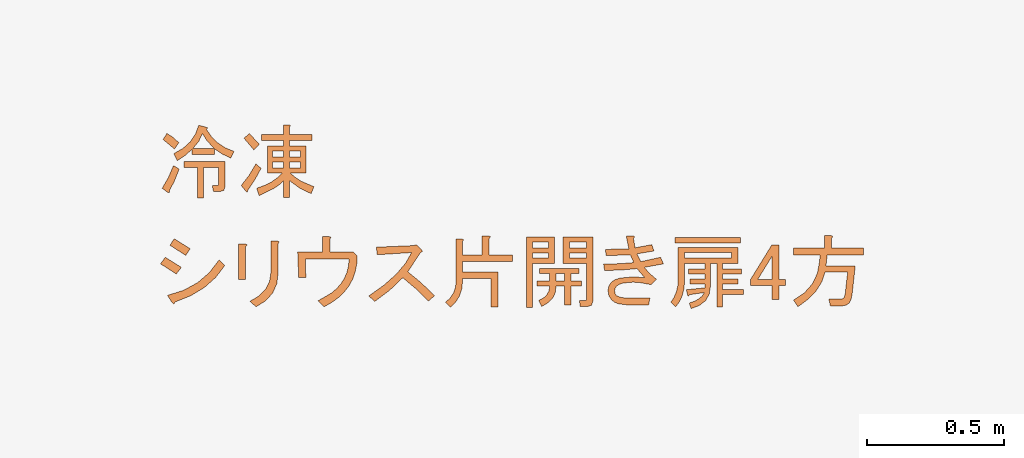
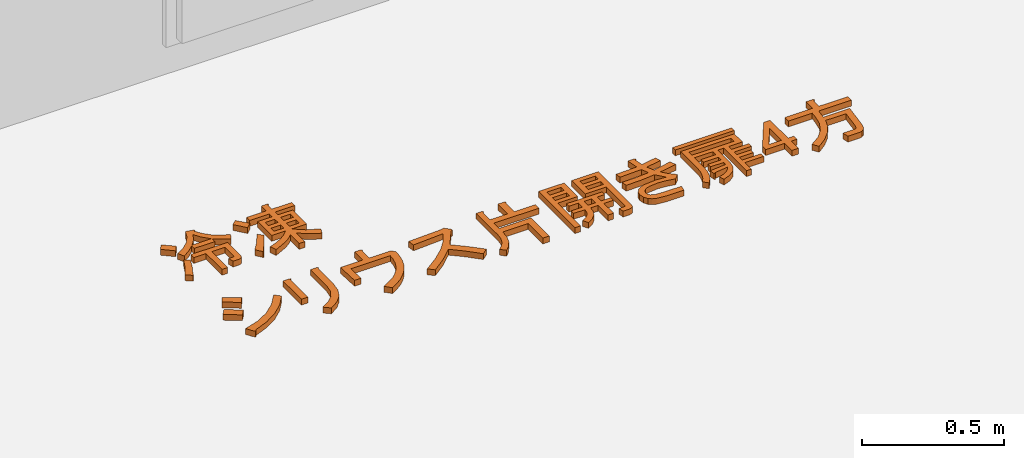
# One storey, part 16 of 16: 1 proxy.
"""IFC2X3 building model written with IfcOpenShell, lengths in millimetres."""

from ifc_helpers import new_model, entity, si_unit, converted_unit, derived_unit, direction, frame, frame_2d, origin, place, context, subcontext, project, spatial, polyline, rectangle, outline, extrude, type_object, element, save


model = new_model("IFC2X3")

# Units and contexts
model_context = context("Model", 3, precision=0.01, world=origin(), true_north=direction((6.123031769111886e-17, 1.0)))
body_context = subcontext(model_context, "Body", "Model", "MODEL_VIEW")
ifc_project = project(units=[si_unit("LENGTHUNIT", "METRE", prefix="MILLI"), si_unit("AREAUNIT", "SQUARE_METRE"), si_unit("VOLUMEUNIT", "CUBIC_METRE"), converted_unit("PLANEANGLEUNIT", "DEGREE", entity("IfcRatioMeasure", 0.017453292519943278), si_unit("PLANEANGLEUNIT", "RADIAN"), dimensions=[0, 0, 0, 0, 0, 0, 0]), si_unit("MASSUNIT", "GRAM", prefix="KILO"), derived_unit("MASSDENSITYUNIT", [(si_unit("MASSUNIT", "GRAM", prefix="KILO"), 1), (si_unit("LENGTHUNIT", "METRE"), -3)]), derived_unit("IONCONCENTRATIONUNIT", [(si_unit("MASSUNIT", "GRAM", prefix="KILO"), 1), (si_unit("LENGTHUNIT", "METRE"), -3)]), derived_unit("MOMENTOFINERTIAUNIT", [(si_unit("LENGTHUNIT", "METRE"), 4)]), si_unit("TIMEUNIT", "SECOND"), si_unit("FREQUENCYUNIT", "HERTZ"), si_unit("THERMODYNAMICTEMPERATUREUNIT", "DEGREE_CELSIUS"), derived_unit("THERMALTRANSMITTANCEUNIT", [(si_unit("MASSUNIT", "GRAM", prefix="KILO"), 1), (si_unit("THERMODYNAMICTEMPERATUREUNIT", "KELVIN"), -1), (si_unit("TIMEUNIT", "SECOND"), -3)]), derived_unit("THERMALCONDUCTANCEUNIT", [(si_unit("MASSUNIT", "GRAM", prefix="KILO"), 1), (si_unit("THERMODYNAMICTEMPERATUREUNIT", "KELVIN"), -1), (si_unit("TIMEUNIT", "SECOND"), -3), (si_unit("LENGTHUNIT", "METRE"), 1)]), derived_unit("VOLUMETRICFLOWRATEUNIT", [(si_unit("LENGTHUNIT", "METRE"), 3), (si_unit("TIMEUNIT", "SECOND"), -1)]), derived_unit("MASSFLOWRATEUNIT", [(si_unit("MASSUNIT", "GRAM", prefix="KILO"), 1), (si_unit("TIMEUNIT", "SECOND"), -1)]), derived_unit("ROTATIONALFREQUENCYUNIT", [(si_unit("TIMEUNIT", "SECOND"), -1)]), si_unit("ELECTRICCURRENTUNIT", "AMPERE"), si_unit("ELECTRICVOLTAGEUNIT", "VOLT"), si_unit("POWERUNIT", "WATT"), si_unit("FORCEUNIT", "NEWTON", prefix="KILO"), si_unit("ILLUMINANCEUNIT", "LUX"), si_unit("LUMINOUSFLUXUNIT", "LUMEN"), si_unit("LUMINOUSINTENSITYUNIT", "CANDELA"), derived_unit("USERDEFINED", [(si_unit("MASSUNIT", "GRAM", prefix="KILO"), -1), (si_unit("LENGTHUNIT", "METRE"), -2), (si_unit("TIMEUNIT", "SECOND"), 3), (si_unit("LUMINOUSFLUXUNIT", "LUMEN"), 1)]), derived_unit("USERDEFINED", [(si_unit("MASSUNIT", "GRAM", prefix="KILO"), 1), (si_unit("TIMEUNIT", "SECOND"), -3), (si_unit("LENGTHUNIT", "METRE"), 3), (si_unit("ELECTRICCURRENTUNIT", "AMPERE"), -2)]), derived_unit("SOUNDPOWERUNIT", [(si_unit("MASSUNIT", "GRAM", prefix="KILO"), 1), (si_unit("TIMEUNIT", "SECOND"), -3), (si_unit("LENGTHUNIT", "METRE"), 2)]), derived_unit("SOUNDPRESSUREUNIT", [(si_unit("MASSUNIT", "GRAM", prefix="KILO"), 1), (si_unit("LENGTHUNIT", "METRE"), -1), (si_unit("TIMEUNIT", "SECOND"), -2)]), derived_unit("LINEARVELOCITYUNIT", [(si_unit("LENGTHUNIT", "METRE"), 1), (si_unit("TIMEUNIT", "SECOND"), -1)]), si_unit("PRESSUREUNIT", "PASCAL"), derived_unit("USERDEFINED", [(si_unit("MASSUNIT", "GRAM", prefix="KILO"), 1), (si_unit("LENGTHUNIT", "METRE"), -2), (si_unit("TIMEUNIT", "SECOND"), -2)]), derived_unit("LINEARFORCEUNIT", [(si_unit("MASSUNIT", "GRAM", prefix="KILO"), 1), (si_unit("TIMEUNIT", "SECOND"), -2)]), derived_unit("PLANARFORCEUNIT", [(si_unit("MASSUNIT", "GRAM", prefix="KILO"), 1), (si_unit("LENGTHUNIT", "METRE"), -1), (si_unit("TIMEUNIT", "SECOND"), -2)]), derived_unit("SPECIFICHEATCAPACITYUNIT", [(si_unit("THERMODYNAMICTEMPERATUREUNIT", "KELVIN"), -1), (si_unit("LENGTHUNIT", "METRE"), 2), (si_unit("TIMEUNIT", "SECOND"), -2)]), derived_unit("HEATINGVALUEUNIT", [(si_unit("LENGTHUNIT", "METRE"), 2), (si_unit("TIMEUNIT", "SECOND"), -2)]), derived_unit("VAPORPERMEABILITYUNIT", [(si_unit("LENGTHUNIT", "METRE"), -1), (si_unit("TIMEUNIT", "SECOND"), 1)]), derived_unit("DYNAMICVISCOSITYUNIT", [(si_unit("MASSUNIT", "GRAM", prefix="KILO"), 1), (si_unit("TIMEUNIT", "SECOND"), -1), (si_unit("LENGTHUNIT", "METRE"), -1)]), derived_unit("THERMALEXPANSIONCOEFFICIENTUNIT", [(si_unit("THERMODYNAMICTEMPERATUREUNIT", "KELVIN"), -1)]), derived_unit("MODULUSOFELASTICITYUNIT", [(si_unit("MASSUNIT", "GRAM", prefix="KILO"), 1), (si_unit("LENGTHUNIT", "METRE"), -1), (si_unit("TIMEUNIT", "SECOND"), -2)]), derived_unit("ISOTHERMALMOISTURECAPACITYUNIT", [(si_unit("LENGTHUNIT", "METRE"), 3), (si_unit("MASSUNIT", "GRAM", prefix="KILO"), -1)]), derived_unit("MOISTUREDIFFUSIVITYUNIT", [(si_unit("TIMEUNIT", "SECOND"), -1), (si_unit("LENGTHUNIT", "METRE"), 2)])], contexts=[model_context])

# Site, building, storey
site_placement = place(None, origin())
site = spatial("IfcSite", under=ifc_project, at=site_placement, Name="Default", CompositionType="ELEMENT")
building_placement = place(site_placement, origin())
building = spatial("IfcBuilding", under=site, at=building_placement, CompositionType="ELEMENT")
storey_placement = place(building_placement, frame((0.0, 0.0, 500.0)))
storey = spatial("IfcBuildingStorey", under=building, at=storey_placement, Name="レベル 1", CompositionType="ELEMENT", Elevation=500.00000000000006)

# Proxy
building_element_proxy_type = type_object("IfcBuildingElementProxyType", Name="立体文字:200㎜\u3000MS Pゴシック", PredefinedType="NOTDEFINED")
proxy_placement = place(storey_placement, origin())
element("IfcBuildingElementProxy", 1, at=proxy_placement, inside=storey, type_object=building_element_proxy_type, Name="立体文字:200㎜\u3000MS Pゴシック", ObjectType="立体文字:200㎜\u3000MS Pゴシック", context=body_context, shape_type="SweptSolid", body=[
    extrude(outline(polyline([(-12.69292841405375, -26.506046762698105), (13.137935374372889, -26.506046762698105), (20.196666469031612, 26.894788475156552), (-7.8336570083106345, 28.224694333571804), (-12.808016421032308, -2.107389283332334), (-12.69292841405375, -26.506046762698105)])), frame((14873.947496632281, 18997.184638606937, 0.0), z_axis=(0.0, 0.0, 1.0), x_axis=(-0.5339929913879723, -0.8454889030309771, 0.0)), (0.0, 0.0, 1.0), 24.99999999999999),
    extrude(outline(polyline([(-35.74413796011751, -10.848757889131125), (11.518383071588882, -10.848757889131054), (59.58462904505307, -6.865077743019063), (63.77098765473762, 17.994484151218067), (13.95401909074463, 15.607770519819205), (-32.18678147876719, 19.11271015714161), (-41.48203515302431, -10.520278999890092), (-39.41506427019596, -13.632092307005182), (-35.74413796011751, -10.848757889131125)])), frame((15163.31645264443, 18848.64588306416, 0.0), z_axis=(0.0, 0.0, 1.0), x_axis=(0.5532962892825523, 0.8329845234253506, 0.0)), (0.0, 0.0, 1.0), 24.99999999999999),
    extrude(outline(polyline([(-14.555450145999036, -34.35830877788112), (13.83407691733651, -34.35830877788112), (14.857961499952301, 33.869636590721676), (-14.13658827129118, 34.846980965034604), (-14.555450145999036, -34.35830877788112)])), frame((14906.304749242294, 18607.70218252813, 0.0), z_axis=(0.0, 0.0, 1.0), x_axis=(-0.526354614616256, -0.8502651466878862, 0.0)), (0.0, 0.0, 1.0), 24.99999999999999),
    extrude(outline(polyline([(-84.58097707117, 8.189890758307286), (-84.58097707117, -18.24765133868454), (45.307816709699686, -18.24765133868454), (45.307816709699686, 7.040432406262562), (42.43417082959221, 13.075088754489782), (36.112149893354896, 8.189890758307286), (-84.58097707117, 8.189890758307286)])), frame((15137.949343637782, 18573.31422016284, 0.0), z_axis=(0.0, 0.0, -1.0), x_axis=(0.0, 1.0, 0.0)), (0.0, 0.0, -1.0), 25.0),
    extrude(outline(polyline([(-11.477428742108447, -36.07605005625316), (15.650762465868, -36.07605005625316), (18.548657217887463, -33.22685941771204), (15.261129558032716, -27.796350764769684), (8.868714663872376, 11.398284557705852), (-3.1003212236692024, 57.19232725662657), (-27.25756150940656, 55.09805037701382), (-16.493952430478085, 9.486648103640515), (-11.477428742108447, -36.07605005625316)])), frame((14871.713236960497, 18844.2994936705, 0.0), z_axis=(0.0, 0.0, 1.0), x_axis=(0.805055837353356, -0.5931990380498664, 0.0)), (0.0, 0.0, 1.0), 24.999999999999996),
    extrude(outline(polyline([(-21.439239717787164, -112.61303631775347), (6.833697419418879, -112.61303631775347), (2.5927568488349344, -77.40037824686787), (-6.017637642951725, -45.78609399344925), (10.432071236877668, -54.010948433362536), (47.443916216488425, 20.01274152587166), (29.966100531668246, 28.751649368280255), (60.93781803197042, 46.35797840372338), (85.99792140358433, 66.27754775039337), (69.54821252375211, 87.35373725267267), (43.46000234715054, 64.8960292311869), (15.058551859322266, 48.414192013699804), (-15.656138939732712, 37.90822560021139), (-48.68407005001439, 33.37812999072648), (-48.2985299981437, 38.64717736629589), (-52.2824438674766, 39.032717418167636), (-73.35863336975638, 14.872207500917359), (-49.68004851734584, -10.059382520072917), (-33.133954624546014, -39.61745316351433), (-23.720351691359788, -73.80200442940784), (-21.439239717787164, -112.61303631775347)]), holes=[polyline([(26.881780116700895, 27.72354256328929), (-7.559797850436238, -41.159613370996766), (-20.668159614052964, -11.473029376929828), (-40.459215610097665, 13.844100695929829), (-9.230471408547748, 16.54288105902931), (26.881780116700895, 27.72354256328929)])]), frame((14993.915028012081, 18979.691319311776, 0.0), z_axis=(0.0, 0.0, 1.0), x_axis=(0.4472135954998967, -0.8944271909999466, 0.0)), (0.0, 0.0, 1.0), 24.99999999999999),
    extrude(outline(polyline([(-95.80016952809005, -47.90008476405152), (-95.80016952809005, -69.73979345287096), (53.62941623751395, -69.73979345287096), (53.62941623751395, 24.515791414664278), (49.60631200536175, 35.72301034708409), (37.53699930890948, 39.45874999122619), (12.248915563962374, 39.45874999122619), (7.651082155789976, 17.619041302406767), (26.042415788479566, 17.619041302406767), (29.49079084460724, 16.469582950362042), (30.640249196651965, 13.021207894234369), (30.640249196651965, -47.90008476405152), (-23.384293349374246, -47.90008476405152), (-23.384293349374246, 63.59737538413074), (-46.37346039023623, 63.59737538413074), (-46.37346039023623, -47.90008476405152), (-95.80016952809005, -47.90008476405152)])), frame((15016.185783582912, 18850.02882514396, 0.0), z_axis=(0.0, 0.0, -1.0), x_axis=(1.0, 0.0, 0.0)), (0.0, 0.0, -1.0), 24.99999999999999),
    extrude(outline(polyline([(-13.144087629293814, -27.492310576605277), (12.91593567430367, -27.492310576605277), (14.335547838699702, 27.973964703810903), (-14.107395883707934, 27.01065644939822), (-13.144087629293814, -27.492310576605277)])), frame((15167.806524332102, 18992.75922395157, 0.0), z_axis=(0.0, 0.0, 1.0), x_axis=(-0.7498378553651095, -0.6616216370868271, 0.0)), (0.0, 0.0, 1.0), 24.99999999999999),
    extrude(outline(polyline([(-127.45617271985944, 14.342286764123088), (-127.45617271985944, -8.646880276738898), (-65.385421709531, -8.646880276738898), (-79.5381276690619, -23.230633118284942), (-93.25978674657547, -42.8432662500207), (-119.40996425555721, -97.15517338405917), (-92.97242215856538, -106.35084020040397), (-82.12440896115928, -76.7522876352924), (-69.12116135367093, -51.17683930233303), (-53.962679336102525, -29.624495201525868), (-36.64896290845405, -12.095255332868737), (-36.64896290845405, -67.2692562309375), (62.20445536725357, -67.2692562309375), (62.20445536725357, -8.646880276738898), (81.74524735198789, -8.646880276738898), (81.74524735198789, -89.10896491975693), (103.58495604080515, -89.10896491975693), (103.58495604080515, -8.646880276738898), (138.0687066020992, -8.646880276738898), (138.0687066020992, 13.19282841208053), (135.76978989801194, 18.078026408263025), (131.1719564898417, 14.342286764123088), (103.58495604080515, 14.342286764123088), (103.58495604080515, 94.80437140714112), (81.74524735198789, 94.80437140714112), (81.74524735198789, 14.342286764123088), (62.20445536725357, 14.342286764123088), (62.20445536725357, 74.11412107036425), (-36.64896290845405, 74.11412107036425), (-36.64896290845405, 15.491745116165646), (-52.741379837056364, 33.88307874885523), (-66.53488006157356, 54.5733290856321), (-87.22513039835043, 102.85057987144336), (-112.51321414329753, 92.50545470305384), (-91.53559921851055, 49.400766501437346), (-65.385421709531, 14.342286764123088), (-127.45617271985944, 14.342286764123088)]), holes=[polyline([(21.973413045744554, 14.342286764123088), (21.973413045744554, 54.5733290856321), (43.813121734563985, 54.5733290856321), (43.813121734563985, 14.342286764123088), (21.973413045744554, 14.342286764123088)]), polyline([(-18.257629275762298, 14.342286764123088), (-18.257629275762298, 54.5733290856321), (3.5820794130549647, 54.5733290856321), (3.5820794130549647, 14.342286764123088), (-18.257629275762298, 14.342286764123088)]), polyline([(-18.257629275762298, -47.728464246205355), (-18.257629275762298, -8.646880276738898), (3.5820794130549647, -8.646880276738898), (3.5820794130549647, -47.728464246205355), (-18.257629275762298, -47.728464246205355)]), polyline([(21.973413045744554, -47.728464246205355), (21.973413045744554, -8.646880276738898), (43.813121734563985, -8.646880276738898), (43.813121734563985, -47.728464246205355), (21.973413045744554, -47.728464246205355)])]), frame((15292.261333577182, 18915.03708083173, 0.0), z_axis=(0.0, 0.0, -1.0), x_axis=(0.0, 1.0, 0.0)), (0.0, 0.0, -1.0), 24.99999999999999),
    extrude(outline(polyline([(-24.76086191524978, -100.9324471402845), (5.213344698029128, -100.93244714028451), (14.007247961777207, -98.3537837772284), (10.41475113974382, -90.617793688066), (21.875477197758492, -29.78778614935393), (23.19786866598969, 27.956641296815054), (14.381925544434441, 82.61548865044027), (-4.57235216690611, 134.18875591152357), (-33.136007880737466, 127.84127686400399), (-12.97504795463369, 72.94550103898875), (-4.858870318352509, 16.517955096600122), (-8.78747497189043, -41.441360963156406), (-24.76086191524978, -100.9324471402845)])), frame((14959.060098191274, 18464.55869712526, 0.0), z_axis=(0.0, 0.0, 1.0), x_axis=(0.5368754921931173, -0.8436614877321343, 0.0)), (0.0, 0.0, 1.0), 24.99999999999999),
    extrude(outline(polyline([(-12.927911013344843, -34.30740209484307), (16.736132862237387, -34.30740209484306), (13.261965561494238, 33.839725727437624), (-17.07018741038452, 34.77507846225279), (-12.927911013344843, -34.30740209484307)])), frame((14872.970457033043, 18539.884139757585, 0.0), z_axis=(0.0, 0.0, 1.0), x_axis=(-0.5812381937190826, -0.8137334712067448, 0.0)), (0.0, 0.0, 1.0), 24.99999999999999),
    extrude(outline(polyline([(12.171942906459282, 32.40035729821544), (-27.91541712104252, 27.371477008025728), (-61.96812080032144, 12.284836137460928), (-89.98616813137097, -12.85956531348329), (-111.96955911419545, -48.0617273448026), (-92.4287671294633, -71.05089438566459), (-72.88797514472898, -37.788443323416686), (-48.74934975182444, -13.865341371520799), (-20.0128909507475, 0.7184114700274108), (13.321401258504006, 5.962815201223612), (128.26723646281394, 5.962815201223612), (128.26723646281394, 30.101440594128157), (124.8188614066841, 36.42346153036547), (119.07156964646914, 32.40035729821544), (12.171942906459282, 32.40035729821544)])), frame((15232.133087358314, 18501.849383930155, 0.0), z_axis=(0.0, 0.0, -1.0), x_axis=(0.0, 1.0, 0.0)), (0.0, 0.0, -1.0), 25.0),
    extrude(outline(polyline([(-22.97401156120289, -96.89434063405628), (-3.4670564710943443, -96.89434063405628), (57.49217818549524, -35.935105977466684), (91.62934959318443, -70.07227738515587), (93.05173173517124, -77.59058299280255), (100.5700373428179, -74.1362263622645), (116.82583325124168, -57.88043045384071), (76.18634348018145, -17.24094068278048), (140.39673731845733, 46.9694531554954), (72.1223945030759, 110.36705719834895), (53.42822920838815, 91.6728919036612), (103.00840672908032, 45.34387356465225), (-9.969374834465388, -67.63390799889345), (-25.86957520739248, -48.88894334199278), (-38.21382022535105, -28.823195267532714), (-47.00210988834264, -7.436663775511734), (-52.234444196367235, 15.2706511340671), (-53.910823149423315, 39.29874946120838), (-52.03124674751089, 64.64763120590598), (-37.60422787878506, 119.30774494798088), (-68.49024010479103, 119.30774494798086), (-77.2023307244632, 88.01533782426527), (-81.79967300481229, 57.94211539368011), (-82.28226694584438, 29.088077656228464), (-78.65011254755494, 1.453224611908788), (-70.9032098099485, -24.96244373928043), (-59.041558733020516, -50.158927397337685), (-43.06515931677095, -74.13622636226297), (-22.97401156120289, -96.89434063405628)])), frame((15468.287766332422, 18522.673053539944, 0.0), z_axis=(0.0, 0.0, 1.0), x_axis=(-0.7071067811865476, 0.7071067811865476, 0.0)), (0.0, 0.0, 1.0), 24.999999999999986),
    extrude(outline(polyline([(5.52509168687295, 11.308020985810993), (-1.652603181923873, 74.77664998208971), (-13.951595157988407, 140.91623239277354), (-42.89874219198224, 132.40700027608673), (-29.969436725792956, 67.22864593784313), (-22.823257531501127, 7.904328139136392), (-87.34766162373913, -7.1719826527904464), (-151.01326358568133, -30.37145854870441), (-146.6483426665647, -59.35012125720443), (-83.07334826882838, -34.71668217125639), (-25.486332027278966, -19.214909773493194), (26.112706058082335, -12.844804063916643), (71.72376598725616, -15.606365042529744), (-3.7090009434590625, -115.96803050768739), (17.46953232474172, -133.97923848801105), (95.3920375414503, -25.628349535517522), (105.83948364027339, -15.984553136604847), (100.54485032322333, 9.480111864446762), (96.59357263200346, 15.507484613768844), (89.3725437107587, 11.308020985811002), (5.52509168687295, 11.308020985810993)])), frame((15725.210489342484, 18519.05020712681, 0.0), z_axis=(0.0, 0.0, -1.0), x_axis=(0.5483569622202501, 0.8362443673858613, 0.0)), (0.0, 0.0, -1.0), 24.999999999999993),
    extrude(outline(polyline([(37.14666241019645, -113.38448760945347), (58.98637109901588, -113.38448760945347), (58.98637109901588, 40.642931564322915), (61.42897009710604, 63.5602574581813), (68.75676709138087, 84.03498435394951), (80.96976208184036, 102.06711225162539), (98.06795506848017, 117.65664115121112), (79.67662143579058, 136.0479747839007), (60.56687633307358, 116.43534165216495), (46.917058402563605, 94.38010952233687), (38.72716764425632, 69.8822783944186), (35.99720405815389, 42.94184826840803), (35.99720405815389, 31.447264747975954), (-67.45404762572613, 31.447264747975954), (-67.45404762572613, 134.89851643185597), (-93.89158972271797, 134.89851643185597), (-93.89158972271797, 6.159181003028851), (35.99720405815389, 6.159181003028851), (35.99720405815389, -30.623486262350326), (-146.76667391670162, -30.623486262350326), (-146.76667391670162, -55.911570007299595), (-61.706755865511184, -55.911570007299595), (-61.706755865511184, -115.68340431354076), (-66.59195386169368, -121.43069607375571), (-60.557297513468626, -124.87907112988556), (-35.26921376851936, -124.87907112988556), (-35.26921376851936, -55.911570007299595), (35.99720405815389, -55.911570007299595), (35.99720405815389, -104.18882079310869), (31.112006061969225, -109.9361125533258), (37.14666241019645, -113.38448760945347)])), frame((15973.009762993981, 18523.628882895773, 0.0), z_axis=(0.0, 0.0, 1.0), x_axis=(-1.0, 0.0, 0.0)), (0.0, 0.0, 1.0), 25.0),
    extrude(outline(polyline([(-168.70511813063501, -69.76327998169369), (-73.30007491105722, -69.76327998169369), (-73.30007491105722, -27.233320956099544), (-73.30007491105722, 15.29663806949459), (57.73817722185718, 15.29663806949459), (61.18655227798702, 14.147179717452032), (62.33601063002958, 10.69880466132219), (62.33601063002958, -11.140904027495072), (84.175719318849, -7.692528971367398), (84.175719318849, 19.894471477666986), (79.57788591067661, 33.68797170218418), (65.78438568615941, 38.28580511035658), (-168.70511813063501, 38.28580511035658), (-168.70511813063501, -69.76327998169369)]), holes=[polyline([(-129.62353416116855, 15.29663806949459), (-129.62353416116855, -46.77411294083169), (-150.31378449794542, -46.77411294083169), (-150.31378449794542, 15.29663806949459), (-129.62353416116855, 15.29663806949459)]), polyline([(-91.69140854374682, -46.77411294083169), (-111.23220052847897, -46.77411294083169), (-111.23220052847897, 15.29663806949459), (-91.69140854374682, 15.29663806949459), (-91.69140854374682, -46.77411294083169)])]), frame((16374.602511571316, 18475.20500248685, 0.0), z_axis=(0.0, 0.0, 1.0), x_axis=(0.0, -1.0, 0.0)), (0.0, 0.0, 1.0), 25.0),
    extrude(outline(polyline([(-70.58116380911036, -3.907053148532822), (-70.58116380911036, -22.298386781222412), (-24.602829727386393, -22.298386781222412), (-24.602829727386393, -49.885387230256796), (-62.5349553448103, -49.885387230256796), (-62.5349553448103, -68.27672086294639), (82.2967970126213, -68.27672086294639), (82.2967970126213, -49.885387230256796), (52.410879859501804, -49.885387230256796), (52.410879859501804, -22.298386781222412), (91.4924638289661, -22.298386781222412), (91.4924638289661, -3.907053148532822), (52.410879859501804, -3.907053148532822), (52.410879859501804, 65.06044797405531), (29.42171281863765, 65.06044797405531), (29.42171281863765, -3.907053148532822), (-1.6136626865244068, -3.907053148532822), (-3.98442053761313, 19.728684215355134), (-13.395610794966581, 40.05972881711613), (-29.84723345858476, 57.08608065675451), (-53.3392885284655, 70.80773973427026), (-64.83387204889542, 48.96803104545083), (-47.232791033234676, 40.05972881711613), (-34.66059030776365, 28.27778070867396), (-27.117269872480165, 13.622186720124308), (-24.602829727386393, -3.907053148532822), (-70.58116380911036, -3.907053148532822)]), holes=[polyline([(29.42171281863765, -22.298386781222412), (29.42171281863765, -49.885387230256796), (-1.6136626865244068, -49.885387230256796), (-1.6136626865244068, -22.298386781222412), (29.42171281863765, -22.298386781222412)])]), frame((16280.015352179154, 18461.837022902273, 0.0), z_axis=(0.0, 0.0, -1.0), x_axis=(1.0, 0.0, 0.0)), (0.0, 0.0, -1.0), 25.0),
    extrude(outline(polyline([(42.16317553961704, 67.93889097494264), (105.09011528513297, 67.93889097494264), (100.93277992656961, 91.93805418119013), (38.950689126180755, 90.61526565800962), (38.950689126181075, 125.57467662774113), (44.71426769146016, 130.44064869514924), (39.32862870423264, 134.834196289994), (14.38461655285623, 138.99153164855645), (15.707405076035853, 90.99320523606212), (-68.57312082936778, 102.70933215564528), (-70.08487914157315, 79.65501789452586), (17.786072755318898, 68.50580034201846), (25.533834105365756, 38.08166430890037), (-27.85013129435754, 42.90039392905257), (-84.06864352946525, 51.6874891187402), (-84.63555289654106, 27.310386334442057), (-23.409341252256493, 18.853988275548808), (33.28159545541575, 14.649410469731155), (56.146939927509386, -22.955577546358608), (15.896374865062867, -12.75120893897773), (-34.794771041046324, -9.255267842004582), (-53.089408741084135, -12.396890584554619), (-66.6834229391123, -18.798242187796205), (-78.30506496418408, -30.845066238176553), (-84.06864352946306, -46.198861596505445), (-83.92691618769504, -66.32414412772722), (-76.32088217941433, -83.61487982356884), (-66.87239272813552, -93.34682395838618), (-53.644507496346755, -101.378039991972), (-15.85054969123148, -112.33828775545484), (53.31239309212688, -123.86544488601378), (62.005003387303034, -99.67731189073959), (-7.157939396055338, -88.15015476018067), (-40.51110715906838, -80.26066606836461), (-56.668024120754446, -70.57596438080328), (-60.44741990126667, -61.788869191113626), (-60.44741990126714, -51.30104590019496), (-56.99872125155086, -42.84464784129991), (-49.67614192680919, -35.61655341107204), (-39.896955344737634, -31.128520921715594), (-26.432857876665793, -29.002610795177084), (11.550069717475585, -31.837157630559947), (39.23414380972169, -38.781797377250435), (74.66597925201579, -51.67898547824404), (97.15338414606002, -35.6165534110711), (75.98876777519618, -10.530813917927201), (60.115305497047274, 14.838380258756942), (131.3569159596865, 15.783229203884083), (125.12091292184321, 41.29415072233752), (51.04475562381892, 37.32578515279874), (42.16317553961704, 67.93889097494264)])), frame((16543.392070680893, 18509.042735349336, 0.0), z_axis=(0.0, 0.0, 1.0), x_axis=(0.9863939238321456, 0.16439898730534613, 0.0)), (0.0, 0.0, 1.0), 25.0),
    extrude(rectangle(XDim=239.08733722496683, YDim=18.39133363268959, at=frame_2d((1.0800249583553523e-12, 0.0), x_axis=(1.0, 0.0))), frame((16832.48659351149, 18632.415537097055, 0.0), z_axis=(0.0, 0.0, 1.0), x_axis=(-1.0, 0.0, 0.0)), (0.0, 0.0, 1.0), 25.0),
    extrude(outline(polyline([(45.656903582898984, -73.01948813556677), (67.46634239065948, -73.01948813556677), (65.92150714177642, -40.16902093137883), (56.56162298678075, -13.952258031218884), (39.3866899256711, 5.630800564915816), (14.396707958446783, 18.580154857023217), (-67.38868757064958, 45.84195336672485), (-59.75538398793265, 68.74186411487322), (91.82021572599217, 18.216664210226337), (97.99955672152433, 36.75468719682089), (54.38067910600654, 51.29431306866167), (78.73455244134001, 124.35593307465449), (61.287001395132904, 130.1717834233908), (36.93312805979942, 57.110163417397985), (18.39510507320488, 63.28950441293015), (36.5696374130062, 117.81310143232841), (19.12208636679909, 123.62895178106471), (0.9475540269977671, 69.10535476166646), (-16.49999701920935, 74.92120511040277), (5.672932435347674, 141.43999347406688), (-11.774618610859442, 147.2558438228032), (-33.94754806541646, 80.73705545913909), (-53.57604299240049, 87.27988710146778), (-35.7650012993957, 140.71301218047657), (-90.28859831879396, 158.88754452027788), (-158.9883305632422, -47.21165221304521), (-48.85066458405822, -83.92420753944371), (-26.882198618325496, -92.98875554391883), (-7.867094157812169, -104.55230174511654), (8.194648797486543, -118.6148461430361), (21.30303024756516, -135.17638873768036), (43.11246905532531, -124.27166933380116), (29.36797897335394, -104.8476378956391), (11.761400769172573, -88.37696796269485), (-9.707265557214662, -74.85965953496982), (-35.03802000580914, -64.29571261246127), (-97.19492060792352, -43.57674574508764), (-73.56802856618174, 27.303930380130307), (-53.93953363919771, 20.76109873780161), (-73.20453791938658, -37.033914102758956), (-55.75698687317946, -42.84976445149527), (-36.491982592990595, 14.945248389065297), (-19.044431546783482, 9.129398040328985), (-36.128491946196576, -42.122783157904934), (-18.68094089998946, -47.938633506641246), (-1.5968805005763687, 3.313547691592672), (11.488782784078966, -1.0483400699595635), (-3.414333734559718, -67.5671284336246), (18.75859571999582, -70.11156296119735), (21.303030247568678, -67.021892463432), (17.3046331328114, -63.568731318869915), (27.118880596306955, -8.68164365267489), (36.31973759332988, -19.927135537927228), (42.476360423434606, -34.39860691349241), (45.58874908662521, -52.0960577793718), (45.656903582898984, -73.01948813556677)]), holes=[polyline([(-80.11086020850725, 131.26225536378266), (-60.482365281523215, 124.71942372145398), (-114.64247165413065, -37.76089539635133), (-134.27096658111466, -31.218063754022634), (-80.11086020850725, 131.26225536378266)])]), frame((16819.502938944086, 18470.078056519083, 0.0), z_axis=(0.0, 0.0, 1.0), x_axis=(0.3162277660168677, -0.9486832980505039, 0.0)), (0.0, 0.0, 1.0), 25.0),
    extrude(outline(polyline([(21.839708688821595, -61.30444544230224), (117.24475190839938, -61.30444544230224), (117.24475190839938, 42.146806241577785), (-139.08446059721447, 42.146806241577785), (-139.08446059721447, 19.157639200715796), (21.839708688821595, 19.157639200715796), (21.839708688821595, -61.30444544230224)]), holes=[polyline([(98.85341827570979, -38.31527840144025), (78.16316793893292, -38.31527840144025), (78.16316793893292, 19.157639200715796), (98.85341827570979, 19.157639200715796), (98.85341827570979, -38.31527840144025)]), polyline([(40.23104232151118, 19.157639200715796), (59.771834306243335, 19.157639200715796), (59.771834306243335, -38.31527840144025), (40.23104232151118, -38.31527840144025), (40.23104232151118, 19.157639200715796)])]), frame((16212.499410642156, 18526.665368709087, 0.0), z_axis=(0.0, 0.0, 1.0), x_axis=(0.0, 1.0, 0.0)), (0.0, 0.0, 1.0), 25.0),
    extrude(outline(polyline([(-103.50936350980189, -69.26732231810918), (43.55843111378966, -69.26732231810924), (63.14351311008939, -57.228785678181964), (22.814415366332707, 8.381239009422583), (65.90159575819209, 34.86601961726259), (52.05727862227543, 57.38886391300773), (8.970098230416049, 30.904083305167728), (-3.6703652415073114, 51.468419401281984), (-22.27619313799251, 40.031809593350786), (-9.635729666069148, 19.467473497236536), (-117.35368064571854, -46.74447802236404), (-103.50936350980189, -69.26732231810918)]), holes=[polyline([(-67.27696181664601, -46.99602953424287), (4.20858746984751, -3.0553707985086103), (31.295294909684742, -47.12180529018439), (-67.27696181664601, -46.99602953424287)])]), frame((17070.63346481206, 18490.718671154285, 0.0), z_axis=(0.0, 0.0, 1.0), x_axis=(-0.5236612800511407, -0.851926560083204, 0.0)), (0.0, 0.0, 1.0), 24.999999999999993),
    extrude(outline(polyline([(31.254062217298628, -14.785953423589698), (43.39215042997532, 91.42231843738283), (-60.6952189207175, 91.74861113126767), (-79.11444149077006, 90.02129918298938), (-92.7371614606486, 84.70884626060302), (-101.56337883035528, 75.81125236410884), (-105.59309359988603, 63.32851749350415), (-110.8137767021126, 17.647540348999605), (-86.34182466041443, 9.06604249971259), (-80.72959032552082, 58.17309293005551), (-75.69652552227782, 64.25029435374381), (-62.42457019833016, 66.49355662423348), (18.561276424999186, 66.49355662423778), (9.164046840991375, -15.7322022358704), (-27.433757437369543, -23.40823785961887), (-62.44088483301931, -39.943120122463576), (-95.85733534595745, -65.3368490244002), (-127.68310897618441, -99.58942456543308), (-105.5278350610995, -118.31862519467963), (-74.98072092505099, -81.96757976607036), (-39.20068771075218, -56.77166580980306), (1.812264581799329, -42.73088332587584), (48.05813595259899, -39.84523231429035), (68.74509274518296, -41.0525152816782), (57.781658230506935, -136.9825672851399), (82.90619565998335, -139.8539429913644), (95.69686926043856, -27.93554898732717), (141.3778464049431, -33.156232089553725), (144.24922211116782, -8.031694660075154), (141.5083634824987, -1.6445151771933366), (135.24354375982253, -5.845533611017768), (98.69876204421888, -1.6689871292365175), (111.88098687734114, 113.67548016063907), (86.75644944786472, 116.54685586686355), (71.74698552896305, -14.785953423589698), (31.254062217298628, -14.785953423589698)])), frame((17274.67501112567, 18505.42912565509, 0.0), z_axis=(0.0, 0.0, -1.0), x_axis=(0.1135465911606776, 0.9935326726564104, 0.0)), (0.0, 0.0, -1.0), 25.0),
])

save(model, "model.ifc")
